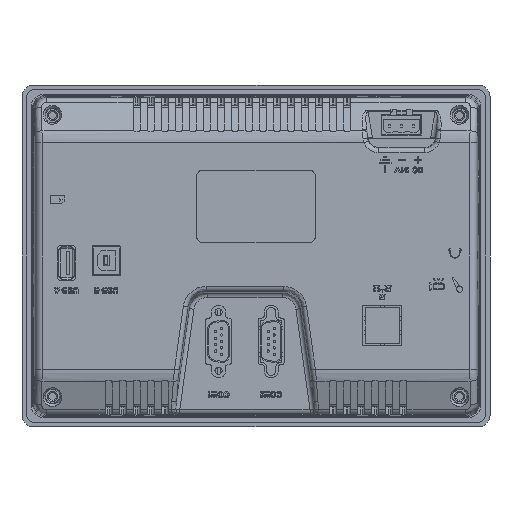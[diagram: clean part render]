
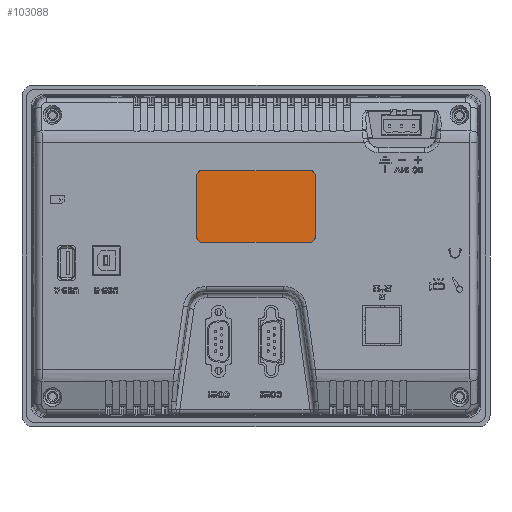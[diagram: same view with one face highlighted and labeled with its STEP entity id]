
A CAD part, front view. The second image highlights one B-rep face of the part: STEP entity #103088.
In plain terms, the highlighted planar face has unit normal (0, -1, 0).
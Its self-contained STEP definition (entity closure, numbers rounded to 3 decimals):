
#57197=CARTESIAN_POINT('',(-23.25,-31.3,34.45));
#57198=DIRECTION('',(0.,1.,0.));
#57199=DIRECTION('',(-1.,0.,0.));
#57200=AXIS2_PLACEMENT_3D('',#57197,#57198,#57199);
#57202=DIRECTION('',(1.,0.,0.));
#57203=VECTOR('',#57202,46.5);
#57204=CARTESIAN_POINT('',(-23.25,-31.3,36.45));
#57205=LINE('',#57204,#57203);
#57206=CARTESIAN_POINT('',(23.25,-31.3,34.45));
#57207=DIRECTION('',(0.,1.,0.));
#57208=DIRECTION('',(0.,0.,1.));
#57209=AXIS2_PLACEMENT_3D('',#57206,#57207,#57208);
#57211=DIRECTION('',(0.,0.,-1.));
#57212=VECTOR('',#57211,26.5);
#57213=CARTESIAN_POINT('',(25.25,-31.3,34.45));
#57214=LINE('',#57213,#57212);
#57215=CARTESIAN_POINT('',(23.25,-31.3,7.95));
#57216=DIRECTION('',(0.,1.,0.));
#57217=DIRECTION('',(1.,0.,0.));
#57218=AXIS2_PLACEMENT_3D('',#57215,#57216,#57217);
#57220=DIRECTION('',(-1.,0.,0.));
#57221=VECTOR('',#57220,46.5);
#57222=CARTESIAN_POINT('',(23.25,-31.3,5.95));
#57223=LINE('',#57222,#57221);
#57224=CARTESIAN_POINT('',(-23.25,-31.3,7.95));
#57225=DIRECTION('',(0.,1.,0.));
#57226=DIRECTION('',(0.,0.,-1.));
#57227=AXIS2_PLACEMENT_3D('',#57224,#57225,#57226);
#57229=DIRECTION('',(0.,0.,1.));
#57230=VECTOR('',#57229,26.5);
#57231=CARTESIAN_POINT('',(-25.25,-31.3,7.95));
#57232=LINE('',#57231,#57230);
#75551=CARTESIAN_POINT('',(-23.25,-31.3,5.95));
#75552=VERTEX_POINT('',#75551);
#75553=CARTESIAN_POINT('',(23.25,-31.3,5.95));
#75554=VERTEX_POINT('',#75553);
#75555=CARTESIAN_POINT('',(-25.25,-31.3,7.95));
#75556=VERTEX_POINT('',#75555);
#75557=CARTESIAN_POINT('',(-25.25,-31.3,34.45));
#75558=CARTESIAN_POINT('',(-23.25,-31.3,36.45));
#75559=VERTEX_POINT('',#75557);
#75560=VERTEX_POINT('',#75558);
#75561=CARTESIAN_POINT('',(23.25,-31.3,36.45));
#75562=VERTEX_POINT('',#75561);
#75563=CARTESIAN_POINT('',(25.25,-31.3,34.45));
#75564=VERTEX_POINT('',#75563);
#75565=CARTESIAN_POINT('',(25.25,-31.3,7.95));
#75566=VERTEX_POINT('',#75565);
#103067=CARTESIAN_POINT('',(0.,-31.3,0.));
#103068=DIRECTION('',(0.,-1.,0.));
#103069=DIRECTION('',(-1.,0.,0.));
#103070=AXIS2_PLACEMENT_3D('',#103067,#103068,#103069);
#103071=PLANE('',#103070);
#103073=ORIENTED_EDGE('',*,*,#103072,.T.);
#103075=ORIENTED_EDGE('',*,*,#103074,.T.);
#103077=ORIENTED_EDGE('',*,*,#103076,.T.);
#103079=ORIENTED_EDGE('',*,*,#103078,.T.);
#103081=ORIENTED_EDGE('',*,*,#103080,.T.);
#103082=ORIENTED_EDGE('',*,*,#103045,.T.);
#103083=ORIENTED_EDGE('',*,*,#103058,.T.);
#103085=ORIENTED_EDGE('',*,*,#103084,.T.);
#103086=EDGE_LOOP('',(#103073,#103075,#103077,#103079,#103081,#103082,#103083,
#103085));
#103087=FACE_OUTER_BOUND('',#103086,.F.);
#103088=ADVANCED_FACE('',(#103087),#103071,.T.);
#57201=CIRCLE('',#57200,2.);
#57210=CIRCLE('',#57209,2.);
#57219=CIRCLE('',#57218,2.);
#57228=CIRCLE('',#57227,2.);
#103045=EDGE_CURVE('',#75554,#75552,#57223,.T.);
#103058=EDGE_CURVE('',#75552,#75556,#57228,.T.);
#103072=EDGE_CURVE('',#75559,#75560,#57201,.T.);
#103074=EDGE_CURVE('',#75560,#75562,#57205,.T.);
#103076=EDGE_CURVE('',#75562,#75564,#57210,.T.);
#103078=EDGE_CURVE('',#75564,#75566,#57214,.T.);
#103080=EDGE_CURVE('',#75566,#75554,#57219,.T.);
#103084=EDGE_CURVE('',#75556,#75559,#57232,.T.);
